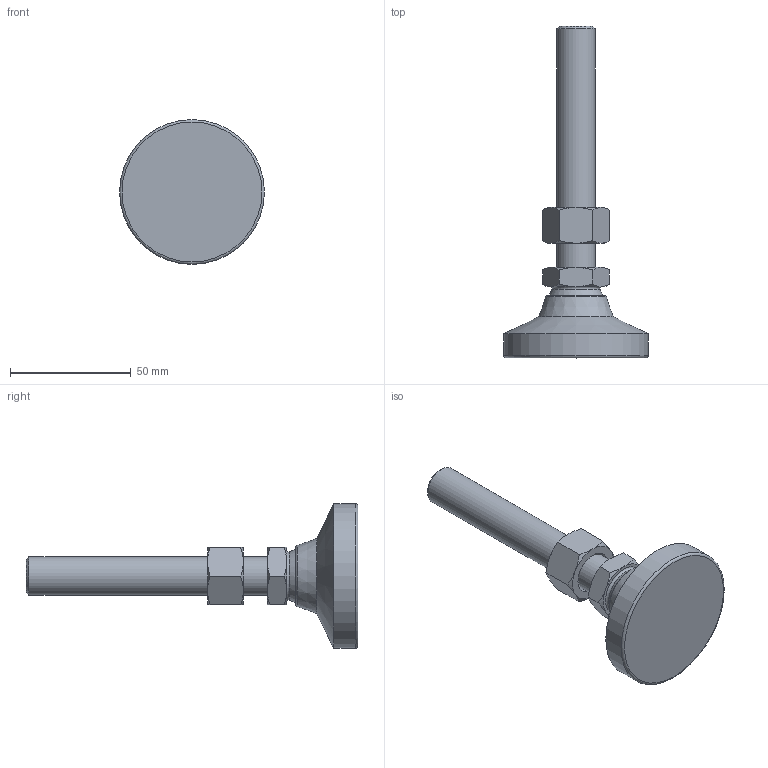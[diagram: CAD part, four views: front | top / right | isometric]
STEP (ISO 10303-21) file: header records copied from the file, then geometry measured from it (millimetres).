
FILE_DESCRIPTION( ( 'STEP AP214' ), ' ' );
FILE_NAME( 'O:/ganter_2015/teil_2/2_5/gn343_2/gn343_2_kre/Levelling foot with threaded stud GN 343.2-60-M16-100-KRE-(0).stp', '2015-10-26T09:20:18', ( '' ), ( '' ), ' ', 'PARTsolutions', ' ' );
FILE_SCHEMA( ( 'AUTOMOTIVE_DESIGN { 1 0 10303 214 1 1 1 1 }' ) );
Length unit declared in the file: millimetre
Products named in the file (4): Levelling foot with threaded stud GN 343.2-60-M16-100-KRE-(0); _Levelling foot with threaded stud GN 343.2-60-M16-100-KRE-(0)_foot; _Levelling foot with threaded stud GN 343.2-60-M16-100-KRE-(0)_screw; _Levelling foot with threaded stud GN 343.2-60-M16-100-KRE-(0)_nut
Assembly tree (3 placements, depth 2):
  Levelling foot with threaded stud GN 343.2-60-M16-100-KRE-(0)
    _Levelling foot with threaded stud GN 343.2-60-M16-100-KRE-(0)_foot
    _Levelling foot with threaded stud GN 343.2-60-M16-100-KRE-(0)_screw
    _Levelling foot with threaded stud GN 343.2-60-M16-100-KRE-(0)_nut
Bounding box: 60 x 137.5 x 60 mm (x, y, z)
Volume: 75711.7 mm3; surface area: 19105.3 mm2
Topology: 3 solids, 3 shells, 56 faces, 117 edges, 68 vertices
Faces by surface type: cone 29, plane 19, torus 3, cylinder 3, sphere 2
Full cylindrical faces by diameter (mm): 13.835 x1, 16 x1, 60 x1
Entity records: 2082 total; most frequent: CARTESIAN_POINT 514, DIRECTION 212, ORIENTED_EDGE 200, AXIS2_PLACEMENT_3D 100, EDGE_CURVE 100, EDGE_LOOP 72, VERTEX_POINT 66, FACE_OUTER_BOUND 62
